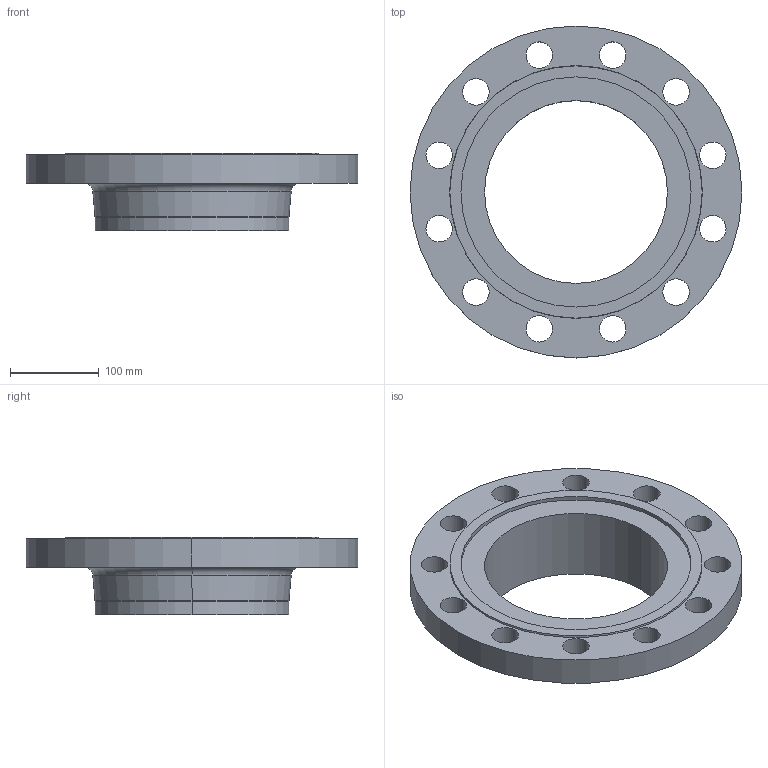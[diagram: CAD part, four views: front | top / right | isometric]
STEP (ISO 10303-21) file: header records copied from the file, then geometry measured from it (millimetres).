
FILE_DESCRIPTION (( 'STEP AP214' ), '1' );
FILE_NAME ('PN40 DN200 Type 11 - Type F Face.STEP', '2019-01-05T02:18:19', ( '' ), ( '' ), 'SwSTEP 2.0', 'SolidWorks 2019', '' );
FILE_SCHEMA (( 'AUTOMOTIVE_DESIGN' ));
Length unit declared in the file: millimetre
Products named in the file (1): PN40 DN200 Type 11 - Type F Face
Bounding box: 375 x 375 x 88 mm (x, y, z)
Volume: 2447526.4 mm3; surface area: 303116.4 mm2
Topology: 1 solids, 1 shells, 45 faces, 114 edges, 74 vertices
Faces by surface type: cylinder 32, plane 5, torus 4, cone 4
Entity records: 1484 total; most frequent: DIRECTION 284, CARTESIAN_POINT 234, ORIENTED_EDGE 228, AXIS2_PLACEMENT_3D 124, EDGE_CURVE 114, CIRCLE 78, VERTEX_POINT 74, EDGE_LOOP 74
